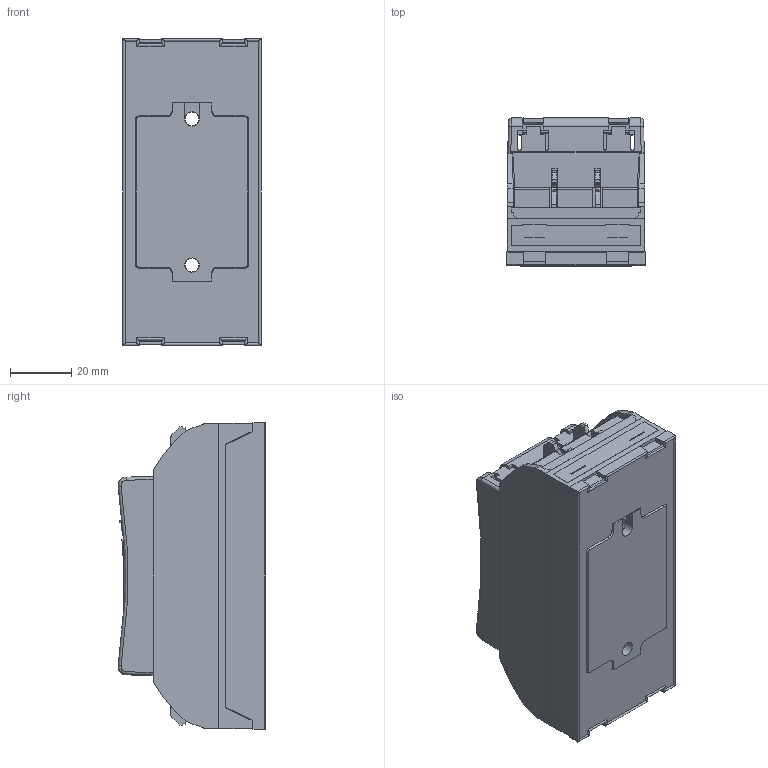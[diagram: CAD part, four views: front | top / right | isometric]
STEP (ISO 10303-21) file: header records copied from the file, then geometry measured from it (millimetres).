
FILE_DESCRIPTION(/* description */ (''),/* implementation_level */ '2;1');
FILE_NAME(/* name */ 'C:\Vault_local\Designs\Stock\3D pour clients\2D3D 600\2D3D 643 A.stp',/* time_stamp */ '2017-12-20T08:47:49+01:00',/* author */ ('fbros'),/* organization */ (''),/* preprocessor_version */ 'ST-DEVELOPER v15.2',/* originating_system */ 'Autodesk Inventor 2014',/* authorisation */ '');
FILE_SCHEMA (('CONFIG_CONTROL_DESIGN'));
Products named in the file (1): 2D3D 643 A
Bounding box: 45 x 48.1 x 99.8 mm (x, y, z)
Volume: 123553.6 mm3; surface area: 57605.6 mm2
Topology: 3 solids, 33 shells, 1596 faces, 4265 edges, 2819 vertices
Faces by surface type: plane 1166, cylinder 243, cone 147, bspline 36, sphere 4
Full cylindrical faces by diameter (mm): 1 x36, 1.5 x18, 2.35 x2, 3.12 x2, 4 x12, 4.7 x1, 4.8 x2
Entity records: 50919 total; most frequent: CARTESIAN_POINT 11377, DIRECTION 8103, ORIENTED_EDGE 8066, EDGE_CURVE 4033, LINE 2817, VECTOR 2817, VERTEX_POINT 2734, AXIS2_PLACEMENT_3D 2643
